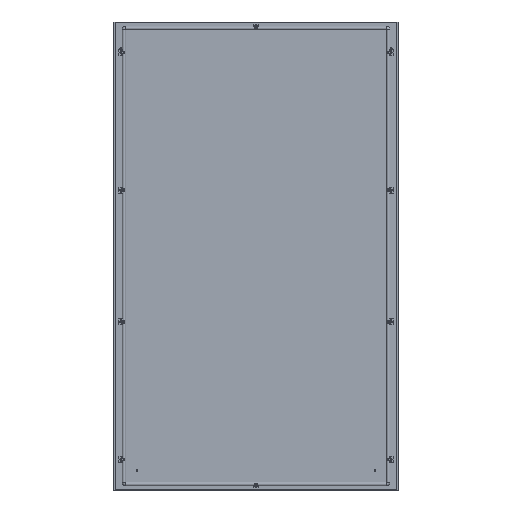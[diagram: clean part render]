
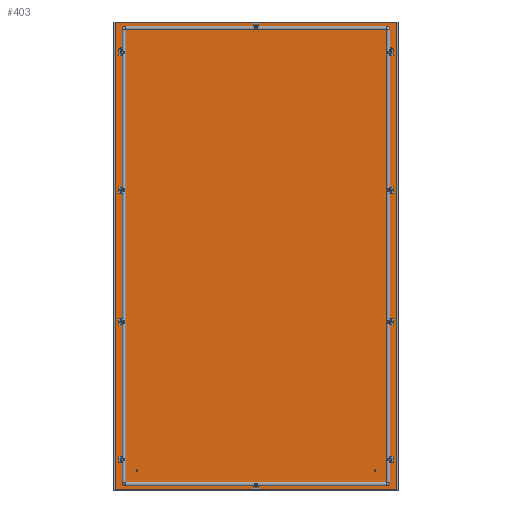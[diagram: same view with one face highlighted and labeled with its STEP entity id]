
A CAD part, top view. The second image highlights one B-rep face of the part: STEP entity #403.
In plain terms, the highlighted planar face has unit normal (0, 0, 1).
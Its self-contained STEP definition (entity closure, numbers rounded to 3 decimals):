
#403 = ADVANCED_FACE('',(#404,#502,#513,#524,#535,#546,#566,#586,#597,
    #608,#628),#648,.F.);
#404 = FACE_BOUND('',#405,.T.);
#405 = EDGE_LOOP('',(#406,#416,#424,#432,#440,#448,#456,#464,#472,#480,
    #488,#496));
#406 = ORIENTED_EDGE('',*,*,#407,.F.);
#407 = EDGE_CURVE('',#408,#410,#412,.T.);
#408 = VERTEX_POINT('',#409);
#409 = CARTESIAN_POINT('',(-595.5,977.5,0.));
#410 = VERTEX_POINT('',#411);
#411 = CARTESIAN_POINT('',(-595.3,977.5,0.));
#412 = LINE('',#413,#414);
#413 = CARTESIAN_POINT('',(0.,977.5,0.
    ));
#414 = VECTOR('',#415,1.);
#415 = DIRECTION('',(1.,0.,0.));
#416 = ORIENTED_EDGE('',*,*,#417,.T.);
#417 = EDGE_CURVE('',#408,#418,#420,.T.);
#418 = VERTEX_POINT('',#419);
#419 = CARTESIAN_POINT('',(-595.5,-977.5,0.));
#420 = LINE('',#421,#422);
#421 = CARTESIAN_POINT('',(-595.5,0.,0.));
#422 = VECTOR('',#423,1.);
#423 = DIRECTION('',(0.,-1.,-0.));
#424 = ORIENTED_EDGE('',*,*,#425,.T.);
#425 = EDGE_CURVE('',#418,#426,#428,.T.);
#426 = VERTEX_POINT('',#427);
#427 = CARTESIAN_POINT('',(-595.3,-977.5,0.));
#428 = LINE('',#429,#430);
#429 = CARTESIAN_POINT('',(0.,-977.5,
    0.));
#430 = VECTOR('',#431,1.);
#431 = DIRECTION('',(1.,-0.,-0.));
#432 = ORIENTED_EDGE('',*,*,#433,.F.);
#433 = EDGE_CURVE('',#434,#426,#436,.T.);
#434 = VERTEX_POINT('',#435);
#435 = CARTESIAN_POINT('',(-595.3,-976.,0.));
#436 = LINE('',#437,#438);
#437 = CARTESIAN_POINT('',(-595.3,0.,0.
    ));
#438 = VECTOR('',#439,1.);
#439 = DIRECTION('',(0.,-1.,0.));
#440 = ORIENTED_EDGE('',*,*,#441,.T.);
#441 = EDGE_CURVE('',#434,#442,#444,.T.);
#442 = VERTEX_POINT('',#443);
#443 = CARTESIAN_POINT('',(595.3,-976.,0.));
#444 = LINE('',#445,#446);
#445 = CARTESIAN_POINT('',(0.,-976.,0.
    ));
#446 = VECTOR('',#447,1.);
#447 = DIRECTION('',(1.,-0.,-0.));
#448 = ORIENTED_EDGE('',*,*,#449,.T.);
#449 = EDGE_CURVE('',#442,#450,#452,.T.);
#450 = VERTEX_POINT('',#451);
#451 = CARTESIAN_POINT('',(595.3,-977.5,0.));
#452 = LINE('',#453,#454);
#453 = CARTESIAN_POINT('',(595.3,-976.,0.));
#454 = VECTOR('',#455,1.);
#455 = DIRECTION('',(0.,-1.,-0.));
#456 = ORIENTED_EDGE('',*,*,#457,.F.);
#457 = EDGE_CURVE('',#458,#450,#460,.T.);
#458 = VERTEX_POINT('',#459);
#459 = CARTESIAN_POINT('',(595.5,-977.5,0.));
#460 = LINE('',#461,#462);
#461 = CARTESIAN_POINT('',(0.,-977.5,
    0.));
#462 = VECTOR('',#463,1.);
#463 = DIRECTION('',(-1.,0.,0.));
#464 = ORIENTED_EDGE('',*,*,#465,.T.);
#465 = EDGE_CURVE('',#458,#466,#468,.T.);
#466 = VERTEX_POINT('',#467);
#467 = CARTESIAN_POINT('',(595.5,977.5,0.));
#468 = LINE('',#469,#470);
#469 = CARTESIAN_POINT('',(595.5,0.,0.));
#470 = VECTOR('',#471,1.);
#471 = DIRECTION('',(-0.,1.,-0.));
#472 = ORIENTED_EDGE('',*,*,#473,.T.);
#473 = EDGE_CURVE('',#466,#474,#476,.T.);
#474 = VERTEX_POINT('',#475);
#475 = CARTESIAN_POINT('',(595.3,977.5,0.));
#476 = LINE('',#477,#478);
#477 = CARTESIAN_POINT('',(0.,977.5,0.
    ));
#478 = VECTOR('',#479,1.);
#479 = DIRECTION('',(-1.,-0.,-0.));
#480 = ORIENTED_EDGE('',*,*,#481,.F.);
#481 = EDGE_CURVE('',#482,#474,#484,.T.);
#482 = VERTEX_POINT('',#483);
#483 = CARTESIAN_POINT('',(595.3,976.,0.));
#484 = LINE('',#485,#486);
#485 = CARTESIAN_POINT('',(595.3,0.,
    0.));
#486 = VECTOR('',#487,1.);
#487 = DIRECTION('',(0.,1.,0.));
#488 = ORIENTED_EDGE('',*,*,#489,.T.);
#489 = EDGE_CURVE('',#482,#490,#492,.T.);
#490 = VERTEX_POINT('',#491);
#491 = CARTESIAN_POINT('',(-595.3,976.,0.));
#492 = LINE('',#493,#494);
#493 = CARTESIAN_POINT('',(0.,976.,0.)
  );
#494 = VECTOR('',#495,1.);
#495 = DIRECTION('',(-1.,-0.,-0.));
#496 = ORIENTED_EDGE('',*,*,#497,.T.);
#497 = EDGE_CURVE('',#490,#410,#498,.T.);
#498 = LINE('',#499,#500);
#499 = CARTESIAN_POINT('',(-595.3,976.,0.));
#500 = VECTOR('',#501,1.);
#501 = DIRECTION('',(0.,1.,-0.));
#502 = FACE_BOUND('',#503,.T.);
#503 = EDGE_LOOP('',(#504));
#504 = ORIENTED_EDGE('',*,*,#505,.T.);
#505 = EDGE_CURVE('',#506,#506,#508,.T.);
#506 = VERTEX_POINT('',#507);
#507 = CARTESIAN_POINT('',(-4.75,964.5,0.));
#508 = CIRCLE('',#509,4.75);
#509 = AXIS2_PLACEMENT_3D('',#510,#511,#512);
#510 = CARTESIAN_POINT('',(0.,964.5,0.));
#511 = DIRECTION('',(0.,0.,-1.));
#512 = DIRECTION('',(-1.,0.,0.));
#513 = FACE_BOUND('',#514,.T.);
#514 = EDGE_LOOP('',(#515));
#515 = ORIENTED_EDGE('',*,*,#516,.T.);
#516 = EDGE_CURVE('',#517,#517,#519,.T.);
#517 = VERTEX_POINT('',#518);
#518 = CARTESIAN_POINT('',(4.75,-964.5,0.));
#519 = CIRCLE('',#520,4.75);
#520 = AXIS2_PLACEMENT_3D('',#521,#522,#523);
#521 = CARTESIAN_POINT('',(0.,-964.5,0.));
#522 = DIRECTION('',(0.,0.,-1.));
#523 = DIRECTION('',(1.,0.,0.));
#524 = FACE_BOUND('',#525,.T.);
#525 = EDGE_LOOP('',(#526));
#526 = ORIENTED_EDGE('',*,*,#527,.T.);
#527 = EDGE_CURVE('',#528,#528,#530,.T.);
#528 = VERTEX_POINT('',#529);
#529 = CARTESIAN_POINT('',(-564.5,-270.25,
    0.));
#530 = CIRCLE('',#531,4.75);
#531 = AXIS2_PLACEMENT_3D('',#532,#533,#534);
#532 = CARTESIAN_POINT('',(-564.5,-275.,0.));
#533 = DIRECTION('',(0.,0.,-1.));
#534 = DIRECTION('',(0.,1.,0.));
#535 = FACE_BOUND('',#536,.T.);
#536 = EDGE_LOOP('',(#537));
#537 = ORIENTED_EDGE('',*,*,#538,.T.);
#538 = EDGE_CURVE('',#539,#539,#541,.T.);
#539 = VERTEX_POINT('',#540);
#540 = CARTESIAN_POINT('',(564.5,-279.75,
    0.));
#541 = CIRCLE('',#542,4.75);
#542 = AXIS2_PLACEMENT_3D('',#543,#544,#545);
#543 = CARTESIAN_POINT('',(564.5,-275.,0.));
#544 = DIRECTION('',(-0.,0.,-1.));
#545 = DIRECTION('',(0.,-1.,0.));
#546 = FACE_BOUND('',#547,.T.);
#547 = EDGE_LOOP('',(#548,#559));
#548 = ORIENTED_EDGE('',*,*,#549,.F.);
#549 = EDGE_CURVE('',#550,#552,#554,.T.);
#550 = VERTEX_POINT('',#551);
#551 = CARTESIAN_POINT('',(-564.5,854.75,
    0.));
#552 = VERTEX_POINT('',#553);
#553 = CARTESIAN_POINT('',(-564.5,845.25,
    0.));
#554 = CIRCLE('',#555,4.75);
#555 = AXIS2_PLACEMENT_3D('',#556,#557,#558);
#556 = CARTESIAN_POINT('',(-564.5,850.,
    0.));
#557 = DIRECTION('',(0.,0.,1.));
#558 = DIRECTION('',(0.,1.,0.));
#559 = ORIENTED_EDGE('',*,*,#560,.F.);
#560 = EDGE_CURVE('',#552,#550,#561,.T.);
#561 = CIRCLE('',#562,4.75);
#562 = AXIS2_PLACEMENT_3D('',#563,#564,#565);
#563 = CARTESIAN_POINT('',(-564.5,850.,
    0.));
#564 = DIRECTION('',(0.,0.,1.));
#565 = DIRECTION('',(0.,1.,0.));
#566 = FACE_BOUND('',#567,.T.);
#567 = EDGE_LOOP('',(#568,#579));
#568 = ORIENTED_EDGE('',*,*,#569,.F.);
#569 = EDGE_CURVE('',#570,#572,#574,.T.);
#570 = VERTEX_POINT('',#571);
#571 = CARTESIAN_POINT('',(564.5,845.25,
    0.));
#572 = VERTEX_POINT('',#573);
#573 = CARTESIAN_POINT('',(564.5,854.75,
    0.));
#574 = CIRCLE('',#575,4.75);
#575 = AXIS2_PLACEMENT_3D('',#576,#577,#578);
#576 = CARTESIAN_POINT('',(564.5,850.,
    0.));
#577 = DIRECTION('',(0.,0.,1.));
#578 = DIRECTION('',(0.,-1.,0.));
#579 = ORIENTED_EDGE('',*,*,#580,.F.);
#580 = EDGE_CURVE('',#572,#570,#581,.T.);
#581 = CIRCLE('',#582,4.75);
#582 = AXIS2_PLACEMENT_3D('',#583,#584,#585);
#583 = CARTESIAN_POINT('',(564.5,850.,
    0.));
#584 = DIRECTION('',(0.,0.,1.));
#585 = DIRECTION('',(0.,-1.,0.));
#586 = FACE_BOUND('',#587,.T.);
#587 = EDGE_LOOP('',(#588));
#588 = ORIENTED_EDGE('',*,*,#589,.T.);
#589 = EDGE_CURVE('',#590,#590,#592,.T.);
#590 = VERTEX_POINT('',#591);
#591 = CARTESIAN_POINT('',(-564.5,-845.25,
    0.));
#592 = CIRCLE('',#593,4.75);
#593 = AXIS2_PLACEMENT_3D('',#594,#595,#596);
#594 = CARTESIAN_POINT('',(-564.5,-850.,0.));
#595 = DIRECTION('',(0.,0.,-1.));
#596 = DIRECTION('',(0.,1.,0.));
#597 = FACE_BOUND('',#598,.T.);
#598 = EDGE_LOOP('',(#599));
#599 = ORIENTED_EDGE('',*,*,#600,.T.);
#600 = EDGE_CURVE('',#601,#601,#603,.T.);
#601 = VERTEX_POINT('',#602);
#602 = CARTESIAN_POINT('',(564.5,-854.75,
    0.));
#603 = CIRCLE('',#604,4.75);
#604 = AXIS2_PLACEMENT_3D('',#605,#606,#607);
#605 = CARTESIAN_POINT('',(564.5,-850.,0.));
#606 = DIRECTION('',(-0.,0.,-1.));
#607 = DIRECTION('',(0.,-1.,0.));
#608 = FACE_BOUND('',#609,.T.);
#609 = EDGE_LOOP('',(#610,#621));
#610 = ORIENTED_EDGE('',*,*,#611,.F.);
#611 = EDGE_CURVE('',#612,#614,#616,.T.);
#612 = VERTEX_POINT('',#613);
#613 = CARTESIAN_POINT('',(564.5,270.25,
    0.));
#614 = VERTEX_POINT('',#615);
#615 = CARTESIAN_POINT('',(564.5,279.75,
    0.));
#616 = CIRCLE('',#617,4.75);
#617 = AXIS2_PLACEMENT_3D('',#618,#619,#620);
#618 = CARTESIAN_POINT('',(564.5,275.,
    0.));
#619 = DIRECTION('',(0.,0.,1.));
#620 = DIRECTION('',(0.,-1.,0.));
#621 = ORIENTED_EDGE('',*,*,#622,.F.);
#622 = EDGE_CURVE('',#614,#612,#623,.T.);
#623 = CIRCLE('',#624,4.75);
#624 = AXIS2_PLACEMENT_3D('',#625,#626,#627);
#625 = CARTESIAN_POINT('',(564.5,275.,
    0.));
#626 = DIRECTION('',(0.,0.,1.));
#627 = DIRECTION('',(0.,-1.,0.));
#628 = FACE_BOUND('',#629,.T.);
#629 = EDGE_LOOP('',(#630,#641));
#630 = ORIENTED_EDGE('',*,*,#631,.F.);
#631 = EDGE_CURVE('',#632,#634,#636,.T.);
#632 = VERTEX_POINT('',#633);
#633 = CARTESIAN_POINT('',(-564.5,279.75,
    0.));
#634 = VERTEX_POINT('',#635);
#635 = CARTESIAN_POINT('',(-564.5,270.25,
    0.));
#636 = CIRCLE('',#637,4.75);
#637 = AXIS2_PLACEMENT_3D('',#638,#639,#640);
#638 = CARTESIAN_POINT('',(-564.5,275.,
    0.));
#639 = DIRECTION('',(0.,0.,1.));
#640 = DIRECTION('',(0.,1.,0.));
#641 = ORIENTED_EDGE('',*,*,#642,.F.);
#642 = EDGE_CURVE('',#634,#632,#643,.T.);
#643 = CIRCLE('',#644,4.75);
#644 = AXIS2_PLACEMENT_3D('',#645,#646,#647);
#645 = CARTESIAN_POINT('',(-564.5,275.,
    0.));
#646 = DIRECTION('',(0.,0.,1.));
#647 = DIRECTION('',(0.,1.,0.));
#648 = PLANE('',#649);
#649 = AXIS2_PLACEMENT_3D('',#650,#651,#652);
#650 = CARTESIAN_POINT('',(0.,0.,0.));
#651 = DIRECTION('',(0.,0.,-1.));
#652 = DIRECTION('',(-1.,0.,0.));
